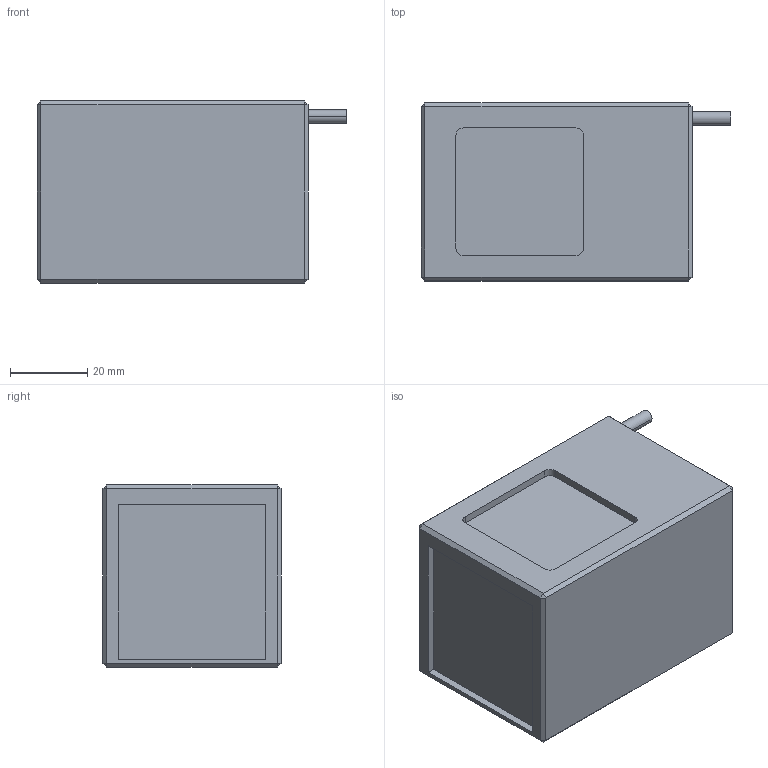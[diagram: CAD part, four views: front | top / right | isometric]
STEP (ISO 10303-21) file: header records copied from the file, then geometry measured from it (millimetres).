
FILE_DESCRIPTION (( 'STEP AP203' ), '1' );
FILE_NAME ('CRT-COLC40-¼òÒ×3DÍ¼.STEP', '2022-07-23T01:28:15', ( 'Admin' ), ( '' ), 'SwSTEP 2.0', 'SolidWorks 2018', '' );
FILE_SCHEMA (( 'CONFIG_CONTROL_DESIGN' ));
Length unit declared in the file: millimetre
Products named in the file (1): CRT-COLC40-潠眢3D芞
Bounding box: 80 x 46 x 47 mm (x, y, z)
Volume: 145791.5 mm3; surface area: 17814.2 mm2
Topology: 1 solids, 1 shells, 59 faces, 130 edges, 72 vertices
Faces by surface type: plane 37, cylinder 14, cone 8
Entity records: 1597 total; most frequent: DIRECTION 270, CARTESIAN_POINT 254, ORIENTED_EDGE 244, EDGE_CURVE 122, LINE 94, VECTOR 94, AXIS2_PLACEMENT_3D 88, VERTEX_POINT 72
